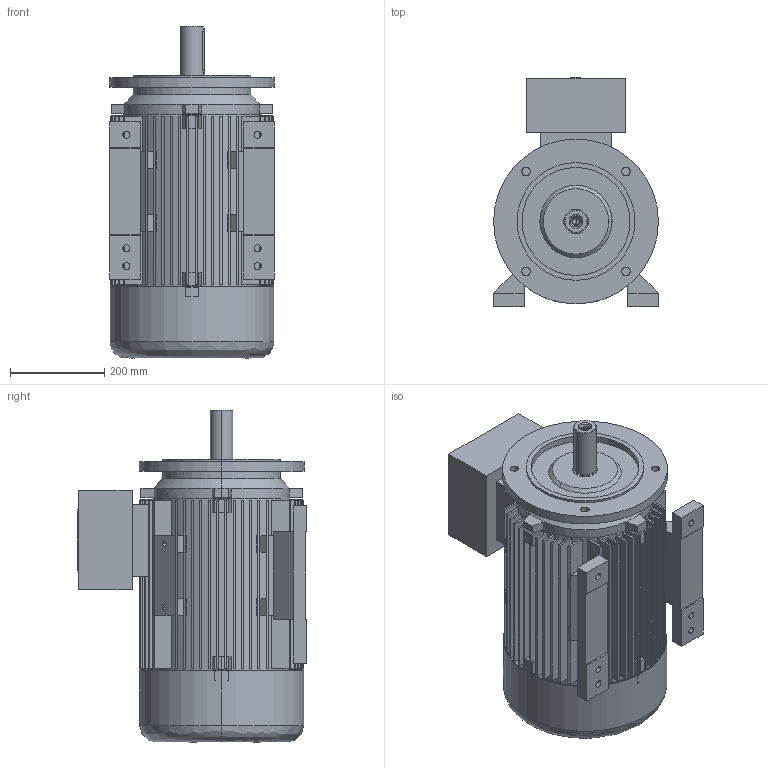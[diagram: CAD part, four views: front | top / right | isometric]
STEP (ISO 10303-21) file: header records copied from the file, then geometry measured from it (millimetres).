
FILE_DESCRIPTION (( 'STEP AP203' ), '1' );
FILE_NAME ('20.18370_C 7AZ 180 M&L B35 STANDK.STEP', '2018-05-15T10:41:36', ( '' ), ( '' ), 'SwSTEP 2.0', 'SolidWorks 2017', '' );
FILE_SCHEMA (( 'CONFIG_CONTROL_DESIGN' ));
Length unit declared in the file: millimetre
Products named in the file (1): 20.18370_C 7AZ 180 M&L B35 STANDK
Bounding box: 350 x 486 x 705 mm (x, y, z)
Volume: 21146087.2 mm3; surface area: 3288578.5 mm2
Topology: 15 solids, 15 shells, 789 faces, 2098 edges, 1371 vertices
Faces by surface type: plane 553, cylinder 185, cone 38, bspline 13
Entity records: 25240 total; most frequent: CARTESIAN_POINT 5134, DIRECTION 4224, ORIENTED_EDGE 4160, EDGE_CURVE 2080, AXIS2_PLACEMENT_3D 1409, VECTOR 1406, LINE 1406, VERTEX_POINT 1371
